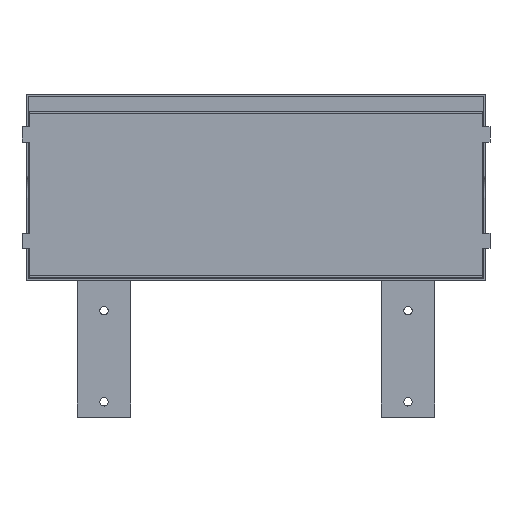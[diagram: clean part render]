
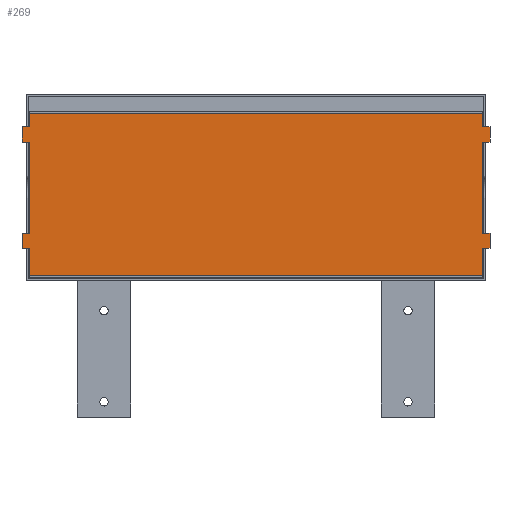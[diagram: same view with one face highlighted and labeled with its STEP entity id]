
A CAD part, top view. The second image highlights one B-rep face of the part: STEP entity #269.
In plain terms, the highlighted planar face has unit normal (0, 0, 1).
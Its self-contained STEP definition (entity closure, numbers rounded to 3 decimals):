
#269 = ADVANCED_FACE( '', ( #538 ), #539, .F. );
#538 = FACE_OUTER_BOUND( '', #828, .T. );
#539 = PLANE( '', #829 );
#828 = EDGE_LOOP( '', ( #1365, #1366, #1367, #1368, #1369, #1370, #1371, #1372, #1373, #1374, #1375, #1376, #1377, #1378, #1379, #1380, #1381, #1382, #1383, #1384 ) );
#829 = AXIS2_PLACEMENT_3D( '', #1385, #1386, #1387 );
#1365 = ORIENTED_EDGE( '', *, *, #1980, .F. );
#1366 = ORIENTED_EDGE( '', *, *, #1837, .T. );
#1367 = ORIENTED_EDGE( '', *, *, #1981, .F. );
#1368 = ORIENTED_EDGE( '', *, *, #1868, .F. );
#1369 = ORIENTED_EDGE( '', *, *, #1982, .T. );
#1370 = ORIENTED_EDGE( '', *, *, #1983, .F. );
#1371 = ORIENTED_EDGE( '', *, *, #1984, .F. );
#1372 = ORIENTED_EDGE( '', *, *, #1882, .F. );
#1373 = ORIENTED_EDGE( '', *, *, #1853, .T. );
#1374 = ORIENTED_EDGE( '', *, *, #1985, .F. );
#1375 = ORIENTED_EDGE( '', *, *, #1986, .F. );
#1376 = ORIENTED_EDGE( '', *, *, #1858, .F. );
#1377 = ORIENTED_EDGE( '', *, *, #1906, .F. );
#1378 = ORIENTED_EDGE( '', *, *, #1987, .F. );
#1379 = ORIENTED_EDGE( '', *, *, #1988, .F. );
#1380 = ORIENTED_EDGE( '', *, *, #1826, .F. );
#1381 = ORIENTED_EDGE( '', *, *, #1989, .F. );
#1382 = ORIENTED_EDGE( '', *, *, #1768, .F. );
#1383 = ORIENTED_EDGE( '', *, *, #1978, .F. );
#1384 = ORIENTED_EDGE( '', *, *, #1793, .F. );
#1385 = CARTESIAN_POINT( '', ( 254., 130., -6. ) );
#1386 = DIRECTION( '', ( 0., 0., -1. ) );
#1387 = DIRECTION( '', ( -1., 0., 0. ) );
#1768 = EDGE_CURVE( '', #2086, #2088, #2089, .T. );
#1793 = EDGE_CURVE( '', #2131, #2133, #2134, .T. );
#1826 = EDGE_CURVE( '', #2188, #2190, #2191, .T. );
#1837 = EDGE_CURVE( '', #2203, #2207, #2209, .T. );
#1853 = EDGE_CURVE( '', #2237, #2234, #2238, .T. );
#1858 = EDGE_CURVE( '', #2243, #2246, #2247, .T. );
#1868 = EDGE_CURVE( '', #2261, #2263, #2264, .T. );
#1882 = EDGE_CURVE( '', #2237, #2287, #2288, .T. );
#1906 = EDGE_CURVE( '', #2327, #2243, #2329, .T. );
#1978 = EDGE_CURVE( '', #2133, #2086, #2430, .T. );
#1980 = EDGE_CURVE( '', #2203, #2131, #2432, .T. );
#1981 = EDGE_CURVE( '', #2263, #2207, #2433, .T. );
#1982 = EDGE_CURVE( '', #2261, #2434, #2435, .T. );
#1983 = EDGE_CURVE( '', #2436, #2434, #2437, .T. );
#1984 = EDGE_CURVE( '', #2287, #2436, #2438, .T. );
#1985 = EDGE_CURVE( '', #2439, #2234, #2440, .T. );
#1986 = EDGE_CURVE( '', #2246, #2439, #2441, .T. );
#1987 = EDGE_CURVE( '', #2442, #2327, #2443, .T. );
#1988 = EDGE_CURVE( '', #2190, #2442, #2444, .T. );
#1989 = EDGE_CURVE( '', #2088, #2188, #2445, .T. );
#2086 = VERTEX_POINT( '', #2562 );
#2088 = VERTEX_POINT( '', #2565 );
#2089 = LINE( '', #2566, #2567 );
#2131 = VERTEX_POINT( '', #2623 );
#2133 = VERTEX_POINT( '', #2626 );
#2134 = LINE( '', #2627, #2628 );
#2188 = VERTEX_POINT( '', #2703 );
#2190 = VERTEX_POINT( '', #2706 );
#2191 = LINE( '', #2707, #2708 );
#2203 = VERTEX_POINT( '', #2724 );
#2207 = VERTEX_POINT( '', #2730 );
#2209 = LINE( '', #2733, #2734 );
#2234 = VERTEX_POINT( '', #2767 );
#2237 = VERTEX_POINT( '', #2771 );
#2238 = LINE( '', #2772, #2773 );
#2243 = VERTEX_POINT( '', #2780 );
#2246 = VERTEX_POINT( '', #2784 );
#2247 = LINE( '', #2785, #2786 );
#2261 = VERTEX_POINT( '', #2806 );
#2263 = VERTEX_POINT( '', #2809 );
#2264 = LINE( '', #2810, #2811 );
#2287 = VERTEX_POINT( '', #2844 );
#2288 = LINE( '', #2845, #2846 );
#2327 = VERTEX_POINT( '', #2900 );
#2329 = LINE( '', #2903, #2904 );
#2430 = LINE( '', #3055, #3056 );
#2432 = LINE( '', #3058, #3059 );
#2433 = LINE( '', #3060, #3061 );
#2434 = VERTEX_POINT( '', #3062 );
#2435 = LINE( '', #3063, #3064 );
#2436 = VERTEX_POINT( '', #3065 );
#2437 = LINE( '', #3066, #3067 );
#2438 = LINE( '', #3068, #3069 );
#2439 = VERTEX_POINT( '', #3070 );
#2440 = LINE( '', #3071, #3072 );
#2441 = LINE( '', #3073, #3074 );
#2442 = VERTEX_POINT( '', #3075 );
#2443 = LINE( '', #3076, #3077 );
#2444 = LINE( '', #3078, #3079 );
#2445 = LINE( '', #3080, #3081 );
#2562 = CARTESIAN_POINT( '', ( 254., 111., -6. ) );
#2565 = CARTESIAN_POINT( '', ( 249., 111., -6. ) );
#2566 = CARTESIAN_POINT( '', ( 254., 111., -6. ) );
#2567 = VECTOR( '', #3244, 1000. );
#2623 = CARTESIAN_POINT( '', ( 249., 121., -6. ) );
#2626 = CARTESIAN_POINT( '', ( 254., 121., -6. ) );
#2627 = CARTESIAN_POINT( '', ( 254., 121., -6. ) );
#2628 = VECTOR( '', #3272, 1000. );
#2703 = CARTESIAN_POINT( '', ( 249., 51., -6. ) );
#2706 = CARTESIAN_POINT( '', ( 254., 51., -6. ) );
#2707 = CARTESIAN_POINT( '', ( 254., 51., -6. ) );
#2708 = VECTOR( '', #3307, 1000. );
#2724 = CARTESIAN_POINT( '', ( 249., 130., -6. ) );
#2730 = CARTESIAN_POINT( '', ( -49., 130., -6. ) );
#2733 = CARTESIAN_POINT( '', ( 254., 130., -6. ) );
#2734 = VECTOR( '', #3318, 1000. );
#2767 = CARTESIAN_POINT( '', ( -54., 41., -6. ) );
#2771 = CARTESIAN_POINT( '', ( -54., 51., -6. ) );
#2772 = CARTESIAN_POINT( '', ( -54., 130., -6. ) );
#2773 = VECTOR( '', #3334, 1000. );
#2780 = CARTESIAN_POINT( '', ( 249., 23., -6. ) );
#2784 = CARTESIAN_POINT( '', ( -49., 23., -6. ) );
#2785 = CARTESIAN_POINT( '', ( 254., 23., -6. ) );
#2786 = VECTOR( '', #3338, 1000. );
#2806 = CARTESIAN_POINT( '', ( -54., 121., -6. ) );
#2809 = CARTESIAN_POINT( '', ( -49., 121., -6. ) );
#2810 = CARTESIAN_POINT( '', ( 254., 121., -6. ) );
#2811 = VECTOR( '', #3346, 1000. );
#2844 = CARTESIAN_POINT( '', ( -49., 51., -6. ) );
#2845 = CARTESIAN_POINT( '', ( 254., 51., -6. ) );
#2846 = VECTOR( '', #3357, 1000. );
#2900 = CARTESIAN_POINT( '', ( 249., 41., -6. ) );
#2903 = CARTESIAN_POINT( '', ( 249., 130., -6. ) );
#2904 = VECTOR( '', #3380, 1000. );
#3055 = CARTESIAN_POINT( '', ( 254., 130., -6. ) );
#3056 = VECTOR( '', #3446, 1000. );
#3058 = CARTESIAN_POINT( '', ( 249., 130., -6. ) );
#3059 = VECTOR( '', #3447, 1000. );
#3060 = CARTESIAN_POINT( '', ( -49., 130., -6. ) );
#3061 = VECTOR( '', #3448, 1000. );
#3062 = CARTESIAN_POINT( '', ( -54., 111., -6. ) );
#3063 = CARTESIAN_POINT( '', ( -54., 130., -6. ) );
#3064 = VECTOR( '', #3449, 1000. );
#3065 = CARTESIAN_POINT( '', ( -49., 111., -6. ) );
#3066 = CARTESIAN_POINT( '', ( 254., 111., -6. ) );
#3067 = VECTOR( '', #3450, 1000. );
#3068 = CARTESIAN_POINT( '', ( -49., 130., -6. ) );
#3069 = VECTOR( '', #3451, 1000. );
#3070 = CARTESIAN_POINT( '', ( -49., 41., -6. ) );
#3071 = CARTESIAN_POINT( '', ( 254., 41., -6. ) );
#3072 = VECTOR( '', #3452, 1000. );
#3073 = CARTESIAN_POINT( '', ( -49., 130., -6. ) );
#3074 = VECTOR( '', #3453, 1000. );
#3075 = CARTESIAN_POINT( '', ( 254., 41., -6. ) );
#3076 = CARTESIAN_POINT( '', ( 254., 41., -6. ) );
#3077 = VECTOR( '', #3454, 1000. );
#3078 = CARTESIAN_POINT( '', ( 254., 130., -6. ) );
#3079 = VECTOR( '', #3455, 1000. );
#3080 = CARTESIAN_POINT( '', ( 249., 130., -6. ) );
#3081 = VECTOR( '', #3456, 1000. );
#3244 = DIRECTION( '', ( -1., 0., 0. ) );
#3272 = DIRECTION( '', ( 1., 0., 0. ) );
#3307 = DIRECTION( '', ( 1., 0., 0. ) );
#3318 = DIRECTION( '', ( -1., 0., 0. ) );
#3334 = DIRECTION( '', ( 0., -1., 0. ) );
#3338 = DIRECTION( '', ( -1., 0., 0. ) );
#3346 = DIRECTION( '', ( 1., 0., 0. ) );
#3357 = DIRECTION( '', ( 1., 0., 0. ) );
#3380 = DIRECTION( '', ( 0., -1., 0. ) );
#3446 = DIRECTION( '', ( 0., -1., 0. ) );
#3447 = DIRECTION( '', ( 0., -1., 0. ) );
#3448 = DIRECTION( '', ( 0., 1., 0. ) );
#3449 = DIRECTION( '', ( 0., -1., 0. ) );
#3450 = DIRECTION( '', ( -1., 0., 0. ) );
#3451 = DIRECTION( '', ( 0., 1., 0. ) );
#3452 = DIRECTION( '', ( -1., 0., 0. ) );
#3453 = DIRECTION( '', ( 0., 1., 0. ) );
#3454 = DIRECTION( '', ( -1., 0., 0. ) );
#3455 = DIRECTION( '', ( 0., -1., 0. ) );
#3456 = DIRECTION( '', ( 0., -1., 0. ) );
